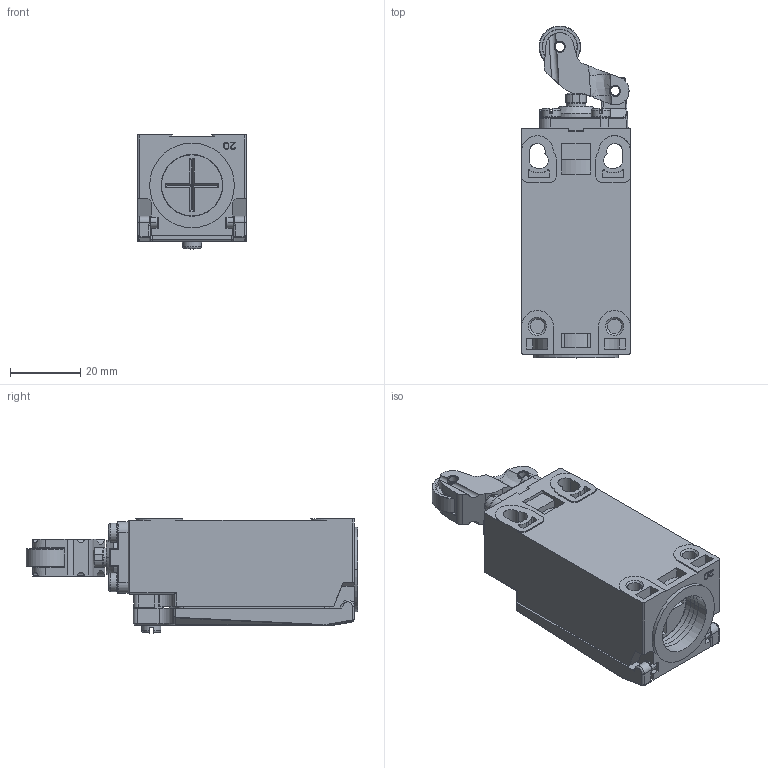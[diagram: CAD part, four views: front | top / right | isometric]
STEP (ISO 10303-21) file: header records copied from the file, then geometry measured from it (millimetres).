
FILE_DESCRIPTION(/* description */ (''),/* implementation_level */ '2;1');
FILE_NAME(/* name */ 'ALS3-P...B1.stp',/* time_stamp */ '2022-04-21T15:09:55+08:00',/* author */ (''),/* organization */ (''),/* preprocessor_version */ 'ST-DEVELOPER v16.7',/* originating_system */ 'SIEMENS PLM Software NX 12.0',/* authorisation */ '');
FILE_SCHEMA (('AUTOMOTIVE_DESIGN { 1 0 10303 214 3 1 1 1 }'));
Length unit declared in the file: millimetre
Products named in the file (13): 4162轮子; 4162轮子齿形弹簧销; 4162轮子架; 4162头部基座; M3X9; 20210810COVER_BODY; 卡片; 头部压杆; 基座头部密封圈; 基座; 尾塞; D4N-4162头部组件; ALS3-P...B1_stp
Assembly tree (17 placements, depth 3):
  ALS3-P...B1_stp
    尾塞
    基座
    基座头部密封圈
    头部压杆
    卡片
    20210810COVER_BODY
    M3X9
    D4N-4162头部组件
      4162头部基座
      4162轮子架
      4162轮子齿形弹簧销  x2
      4162轮子
      M3X9  x4
Bounding box: 31 x 94.18 x 32.37 mm (x, y, z)
Volume: 27093.1 mm3; surface area: 29966.8 mm2
Topology: 16 solids, 16 shells, 1555 faces, 4192 edges, 2695 vertices
Faces by surface type: plane 730, cylinder 422, bspline 155, cone 120, torus 80, sphere 40, extrusion 8
Entity records: 49341 total; most frequent: CARTESIAN_POINT 14856, ORIENTED_EDGE 7384, DIRECTION 6848, EDGE_CURVE 3692, VERTEX_POINT 2385, AXIS2_PLACEMENT_3D 2385, VECTOR 2078, LINE 2070
